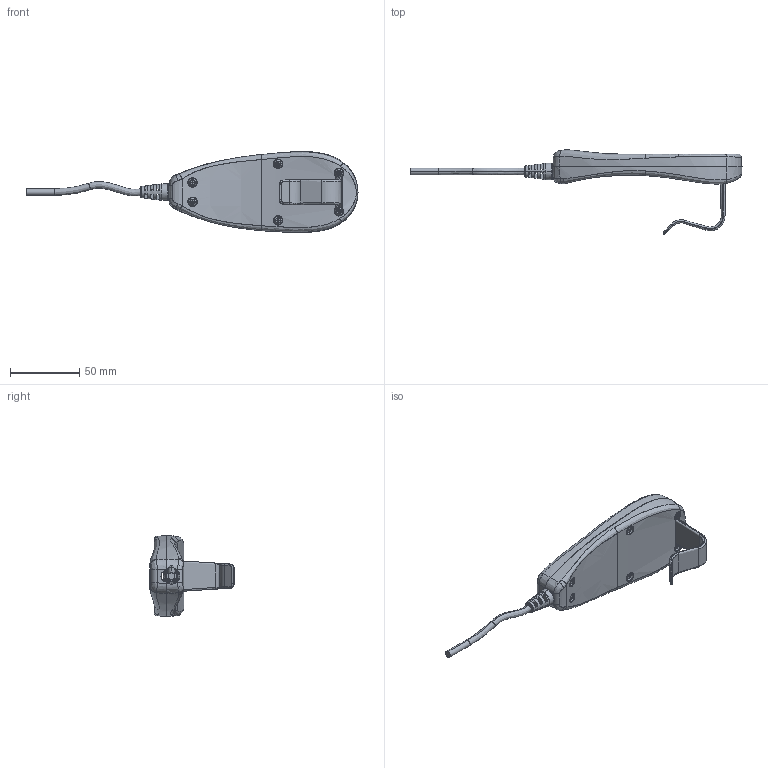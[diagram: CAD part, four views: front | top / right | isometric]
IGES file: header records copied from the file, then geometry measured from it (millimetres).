
Start section: SolidWorks IGES file using analytic representation for surfaces
Global section: file name: C:\Users\lynn\Desktop\HM\hm-shoukongqi_asm_12_asm.IGS; native system: SolidWorks 2015; preprocessor: SolidWorks 2015; author: lynn; date: 210929.134303; units: millimetre
Bounding box: 240.32 x 60.91 x 58.53 mm (x, y, z)
Surface area: 36588.7 mm2 (no closed solid volume)
Topology: 0 solids, 0 shells, 407 faces, 5234 edges, 5232 vertices
Faces by surface type: bspline 277, revolution 130
